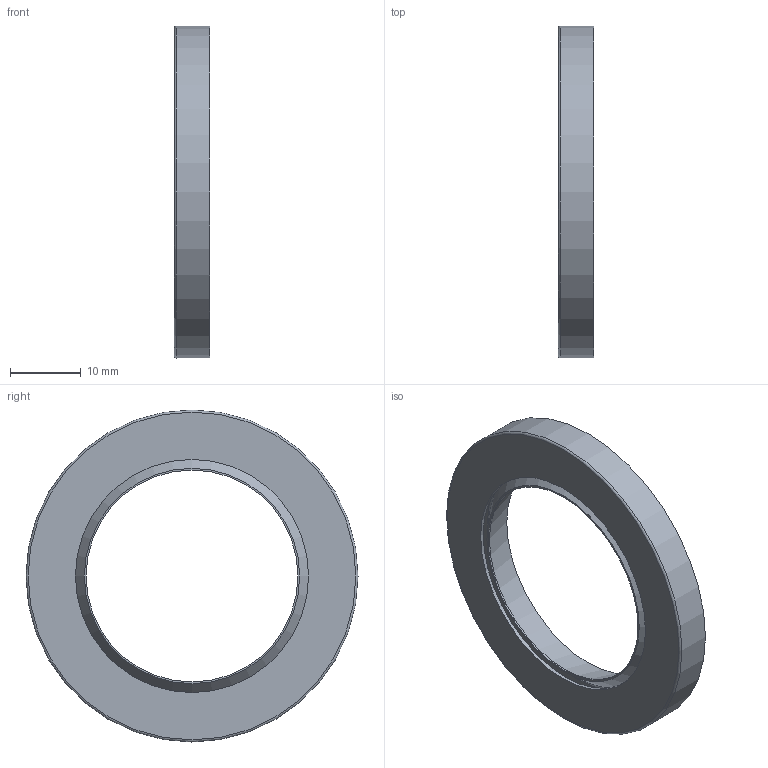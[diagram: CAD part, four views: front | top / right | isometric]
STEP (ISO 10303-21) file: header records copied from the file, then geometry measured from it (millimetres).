
FILE_DESCRIPTION(('STEP AP203'),'1');
FILE_NAME('//192.168.1.1/share/s-4 技術開発/s-4-4_CAD/s-4-4-3_見直し済み/007 修正済み/シール/SBX-30.step','2022-02-16T05:41:06',(' '),(' '),'Spatial InterOp 3D',' ',' ');
FILE_SCHEMA(('CONFIG_CONTROL_DESIGN'));
Length unit declared in the file: millimetre
Products named in the file (1): 1
Bounding box: 5 x 47 x 47 mm (x, y, z)
Volume: 3752.6 mm3; surface area: 4565.4 mm2
Topology: 1 solids, 1 shells, 14 faces, 23 edges, 14 vertices
Faces by surface type: plane 5, cylinder 3, cone 3, torus 3
Full cylindrical faces by diameter (mm): 30 x1, 33 x1, 47 x1
Entity records: 332 total; most frequent: DIRECTION 58, CARTESIAN_POINT 43, AXIS2_PLACEMENT_3D 29, EDGE_LOOP 28, ORIENTED_EDGE 28, FACE_OUTER_BOUND 20, ADVANCED_FACE 14, EDGE_CURVE 14
